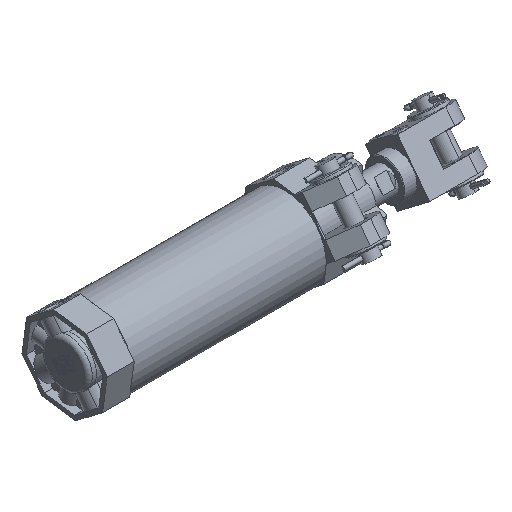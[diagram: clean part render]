
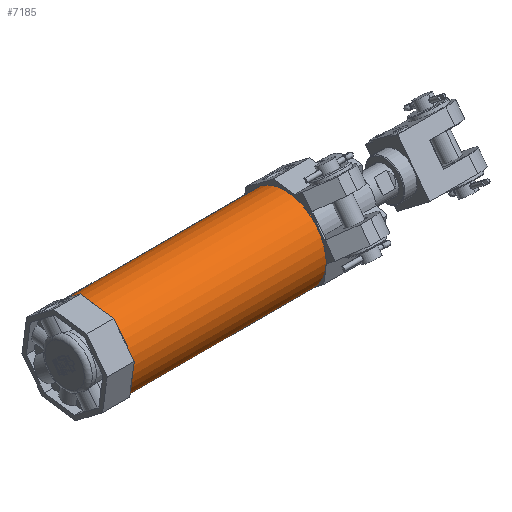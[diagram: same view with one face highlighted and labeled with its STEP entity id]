
A CAD part, isometric view. The second image highlights one B-rep face of the part: STEP entity #7185.
In plain terms, the highlighted cylindrical face has radius 30 mm (diameter 60 mm), a partial arc.
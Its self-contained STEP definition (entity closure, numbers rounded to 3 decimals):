
#7129=CARTESIAN_POINT('Axis2P3D Location',(71.5,0.,0.)) ;
#7134=CARTESIAN_POINT('Line Origine',(71.5,30.,0.)) ;
#7138=CARTESIAN_POINT('Vertex',(0.,30.,0.)) ;
#7140=CARTESIAN_POINT('Vertex',(143.,30.,0.)) ;
#7147=CARTESIAN_POINT('Vertex',(0.,-30.,0.)) ;
#7150=CARTESIAN_POINT('Line Origine',(71.5,-30.,0.)) ;
#7154=CARTESIAN_POINT('Vertex',(143.,-30.,0.)) ;
#7169=CARTESIAN_POINT('Axis2P3D Location',(0.,0.,0.)) ;
#7174=CARTESIAN_POINT('Axis2P3D Location',(143.,0.,0.)) ;
#7130=DIRECTION('Axis2P3D Direction',(1.,0.,0.)) ;
#7131=DIRECTION('Axis2P3D XDirection',(0.,1.,0.)) ;
#7135=DIRECTION('Vector Direction',(1.,0.,0.)) ;
#7151=DIRECTION('Vector Direction',(1.,0.,0.)) ;
#7170=DIRECTION('Axis2P3D Direction',(1.,0.,0.)) ;
#7175=DIRECTION('Axis2P3D Direction',(1.,0.,0.)) ;
#7132=AXIS2_PLACEMENT_3D('Cylinder Axis2P3D',#7129,#7130,#7131) ;
#7171=AXIS2_PLACEMENT_3D('Circle Axis2P3D',#7169,#7170,$) ;
#7176=AXIS2_PLACEMENT_3D('Circle Axis2P3D',#7174,#7175,$) ;
#7180=ORIENTED_EDGE('',*,*,#7156,.F.) ;
#7181=ORIENTED_EDGE('',*,*,#7173,.T.) ;
#7182=ORIENTED_EDGE('',*,*,#7142,.T.) ;
#7183=ORIENTED_EDGE('',*,*,#7178,.F.) ;
#7136=VECTOR('Line Direction',#7135,1.) ;
#7152=VECTOR('Line Direction',#7151,1.) ;
#7185=ADVANCED_FACE('PartBody',(#7184),#7133,.T.) ;
#7172=CIRCLE('generated circle',#7171,30.) ;
#7177=CIRCLE('generated circle',#7176,30.) ;
#7133=CYLINDRICAL_SURFACE('generated cylinder',#7132,30.) ;
#7142=EDGE_CURVE('',#7139,#7141,#7137,.T.) ;
#7156=EDGE_CURVE('',#7148,#7155,#7153,.T.) ;
#7173=EDGE_CURVE('',#7148,#7139,#7172,.T.) ;
#7178=EDGE_CURVE('',#7155,#7141,#7177,.T.) ;
#7179=EDGE_LOOP('',(#7180,#7181,#7182,#7183)) ;
#7184=FACE_OUTER_BOUND('',#7179,.T.) ;
#7137=LINE('Line',#7134,#7136) ;
#7153=LINE('Line',#7150,#7152) ;
#7139=VERTEX_POINT('',#7138) ;
#7141=VERTEX_POINT('',#7140) ;
#7148=VERTEX_POINT('',#7147) ;
#7155=VERTEX_POINT('',#7154) ;
